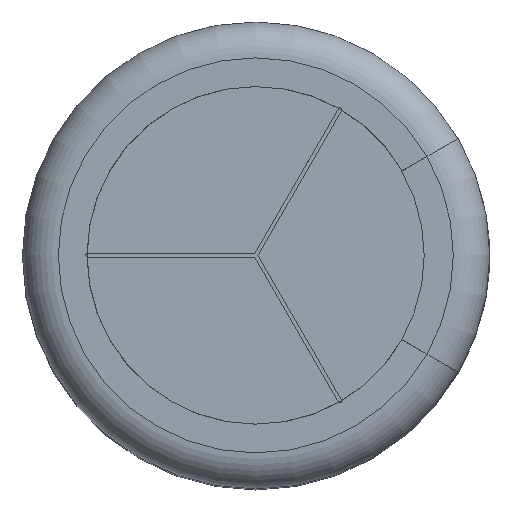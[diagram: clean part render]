
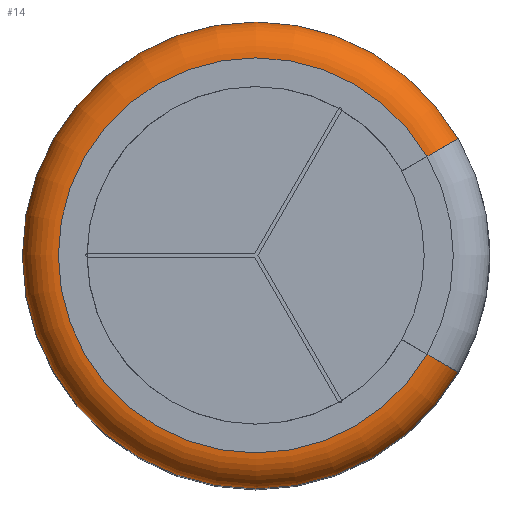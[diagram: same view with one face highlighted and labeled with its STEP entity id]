
A CAD part, top view. The second image highlights one B-rep face of the part: STEP entity #14.
In plain terms, the highlighted toroidal (fillet/blend) face has major radius 5.5 mm and minor radius 1 mm.
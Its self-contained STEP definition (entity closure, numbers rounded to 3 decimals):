
#14 = ADVANCED_FACE ( 'NONE', ( #3424 ), #187, .T. ) ;
#85 = ORIENTED_EDGE ( 'NONE', *, *, #3692, .T. ) ;
#187 = TOROIDAL_SURFACE ( 'NONE', #8555, 5.5, 1. ) ;
#961 = CARTESIAN_POINT ( 'NONE',  ( 0., 0., 11.89 ) ) ;
#1009 = DIRECTION ( 'NONE',  ( 1., 0., 0. ) ) ;
#1361 = EDGE_LOOP ( 'NONE', ( #4923, #85, #2281, #6258 ) ) ;
#1612 = AXIS2_PLACEMENT_3D ( 'NONE', #10341, #12873, #5890 ) ;
#1836 = CIRCLE ( 'NONE', #1612, 6.5 ) ;
#2281 = ORIENTED_EDGE ( 'NONE', *, *, #4387, .T. ) ;
#2487 = DIRECTION ( 'NONE',  ( -0.5, 0.866, 0. ) ) ;
#2609 = VERTEX_POINT ( 'NONE', #3618 ) ;
#2968 = CIRCLE ( 'NONE', #8931, 1. ) ;
#3424 = FACE_OUTER_BOUND ( 'NONE', #1361, .T. ) ;
#3618 = CARTESIAN_POINT ( 'NONE',  ( 4.763, 2.75, 11.89 ) ) ;
#3692 = EDGE_CURVE ( 'NONE', #10091, #2609, #3720, .T. ) ;
#3720 = CIRCLE ( 'NONE', #6130, 5.5 ) ;
#3762 = AXIS2_PLACEMENT_3D ( 'NONE', #5927, #2487, #11874 ) ;
#3866 = VERTEX_POINT ( 'NONE', #4058 ) ;
#4058 = CARTESIAN_POINT ( 'NONE',  ( 5.629, 3.25, 10.89 ) ) ;
#4387 = EDGE_CURVE ( 'NONE', #2609, #3866, #9015, .T. ) ;
#4586 = CARTESIAN_POINT ( 'NONE',  ( 0., 0., 10.89 ) ) ;
#4923 = ORIENTED_EDGE ( 'NONE', *, *, #11315, .F. ) ;
#4989 = DIRECTION ( 'NONE',  ( 0.5, 0.866, 0. ) ) ;
#5368 = EDGE_CURVE ( 'NONE', #10815, #3866, #1836, .T. ) ;
#5890 = DIRECTION ( 'NONE',  ( 1., 0., 0. ) ) ;
#5927 = CARTESIAN_POINT ( 'NONE',  ( 4.763, 2.75, 10.89 ) ) ;
#6130 = AXIS2_PLACEMENT_3D ( 'NONE', #961, #6651, #7775 ) ;
#6258 = ORIENTED_EDGE ( 'NONE', *, *, #5368, .F. ) ;
#6651 = DIRECTION ( 'NONE',  ( 0., 0., -1. ) ) ;
#7775 = DIRECTION ( 'NONE',  ( 1., 0., 0. ) ) ;
#8555 = AXIS2_PLACEMENT_3D ( 'NONE', #4586, #13619, #1009 ) ;
#8931 = AXIS2_PLACEMENT_3D ( 'NONE', #10821, #4989, #9606 ) ;
#9015 = CIRCLE ( 'NONE', #3762, 1. ) ;
#9347 = CARTESIAN_POINT ( 'NONE',  ( 5.629, -3.25, 10.89 ) ) ;
#9606 = DIRECTION ( 'NONE',  ( -0.866, 0.5, 0. ) ) ;
#10091 = VERTEX_POINT ( 'NONE', #13807 ) ;
#10341 = CARTESIAN_POINT ( 'NONE',  ( 0., 0., 10.89 ) ) ;
#10815 = VERTEX_POINT ( 'NONE', #9347 ) ;
#10821 = CARTESIAN_POINT ( 'NONE',  ( 4.763, -2.75, 10.89 ) ) ;
#11315 = EDGE_CURVE ( 'NONE', #10091, #10815, #2968, .T. ) ;
#11874 = DIRECTION ( 'NONE',  ( -0.866, -0.5, 0. ) ) ;
#12873 = DIRECTION ( 'NONE',  ( 0., 0., -1. ) ) ;
#13619 = DIRECTION ( 'NONE',  ( 0., 0., -1. ) ) ;
#13807 = CARTESIAN_POINT ( 'NONE',  ( 4.763, -2.75, 11.89 ) ) ;
